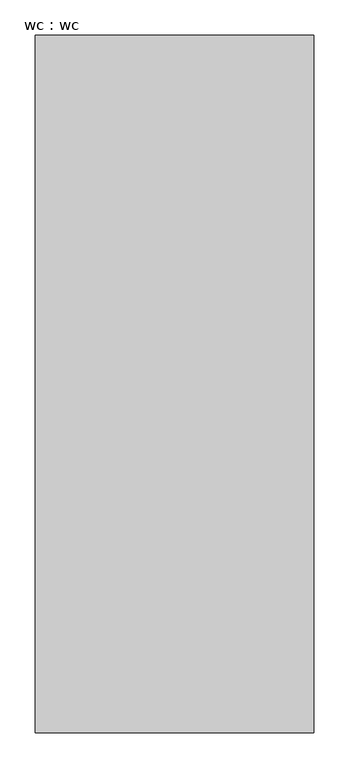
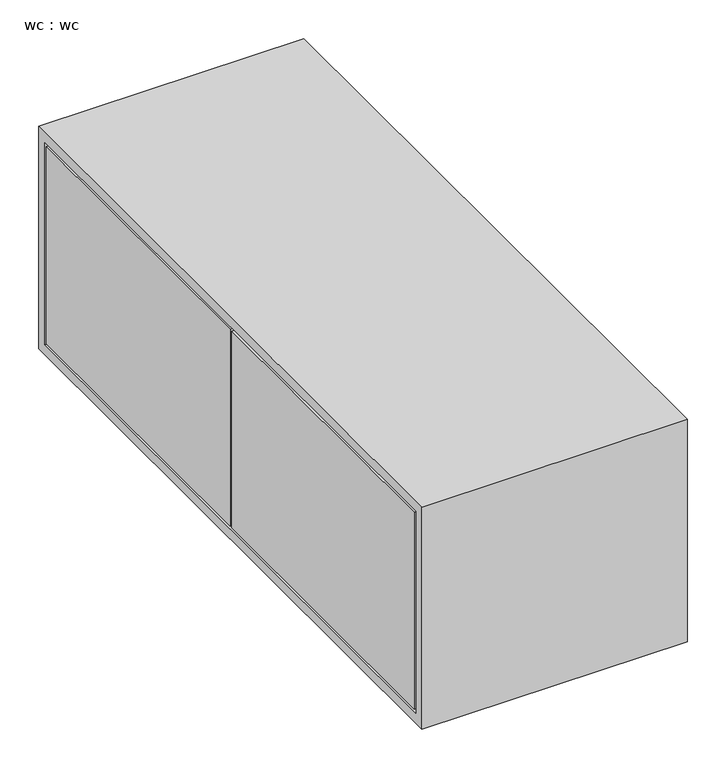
"""IFC4 building model written with IfcOpenShell, lengths in millimetres: proxy geometry, wc : wc."""

from ifc_helpers import new_model, si_unit, frame, origin, place, context, project, spatial, polyline, outline, extrude, source, transform, mapped, element, save


def wc_wc_13b890ef(model_context):
    return source(origin(), model_context, "Body", "SweptSolid", [
        extrude(outline(polyline([(18958.8111171, 800.0), (19952.3905873, 800.0), (19952.3905873, 448.5578412), (18958.8111171, 448.5578412), (18958.8111171, 800.0)]), holes=[polyline([(19936.3905873, 464.5578412), (19936.3905873, 784.0), (18974.8111171, 784.0), (18974.8111171, 464.5578412), (19936.3905873, 464.5578412)])]), frame((97521.9508813, 0.0, 0.0), z_axis=(1.0, 0.0, 0.0), x_axis=(0.0, 1.0, 0.0)), (0.0, 0.0, 1.0), 396.9267928),
        extrude(outline(polyline([(97521.9508813, 19455.6008522), (97521.9508813, 19932.3905873), (97918.8776741, 19932.3905873), (97918.8776741, 19455.6008522), (97521.9508813, 19455.6008522)])), frame((0.0, 0.0, 468.5578412), z_axis=(0.0, 0.0, 1.0), x_axis=(1.0, 0.0, 0.0)), (0.0, 0.0, 1.0), 311.4421588),
        extrude(outline(polyline([(97521.9508813, 18978.8111171), (97521.9508813, 19451.6008522), (97918.8776741, 19451.6008522), (97918.8776741, 18978.8111171), (97521.9508813, 18978.8111171)])), frame((0.0, 0.0, 468.5578412), z_axis=(0.0, 0.0, 1.0), x_axis=(1.0, 0.0, 0.0)), (0.0, 0.0, 1.0), 311.4421588),
    ])


if __name__ == "__main__":
    model = new_model("IFC4")
    model_context = context("Model", 3, world=origin())
    ifc_project = project(units=[si_unit("LENGTHUNIT", "METRE", prefix="MILLI")], contexts=[model_context])
    site = spatial("IfcSite", under=ifc_project)
    building = spatial("IfcBuilding", under=site)
    placement = place(None, origin())
    wc_wc_shape = wc_wc_13b890ef(model_context)
    element("IfcBuildingElementProxy", 1, Name="wc : wc", ObjectType="wc : wc", at=placement, inside=building, context=model_context, shape_type="MappedRepresentation", body=[
        mapped(wc_wc_shape, transform((0.0, 0.0, 0.0), x_axis=(1.0, 0.0, 0.0), y_axis=(0.0, 1.0, 0.0), z_axis=(0.0, 0.0, 1.0))),
    ])
    save(model, "model.ifc")
